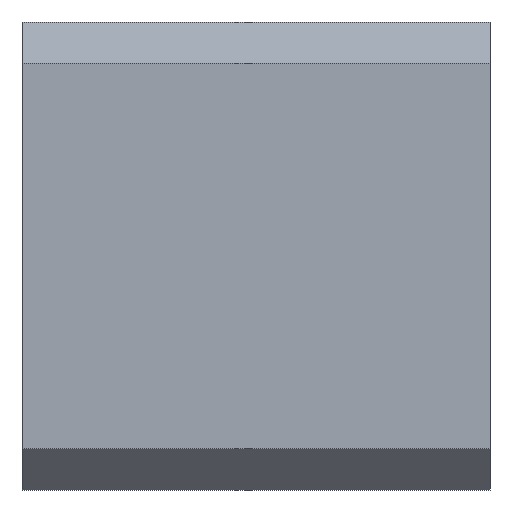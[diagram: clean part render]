
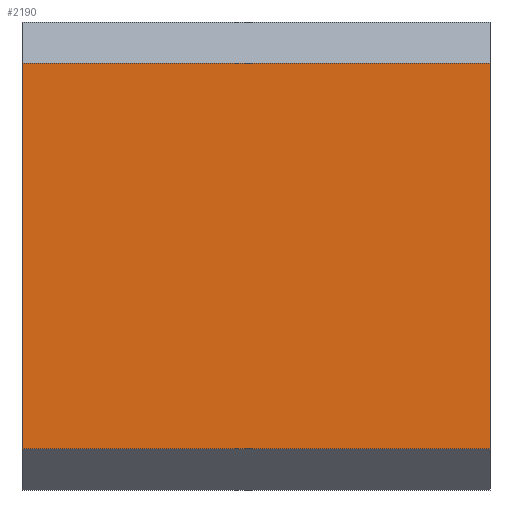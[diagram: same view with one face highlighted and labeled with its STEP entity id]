
A CAD part, left-side view. The second image highlights one B-rep face of the part: STEP entity #2190.
In plain terms, the highlighted planar face has unit normal (-1, 0, 0).
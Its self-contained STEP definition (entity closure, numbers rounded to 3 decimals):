
#13=DIRECTION('',(0.,0.,1.));
#14=VECTOR('',#13,14.);
#15=CARTESIAN_POINT('',(0.,0.,-15.5));
#16=LINE('',#15,#14);
#45=DIRECTION('',(0.,1.,0.));
#46=VECTOR('',#45,17.);
#47=CARTESIAN_POINT('',(0.,0.,-15.5));
#48=LINE('',#47,#46);
#608=DIRECTION('',(0.,1.,0.));
#609=VECTOR('',#608,17.);
#610=CARTESIAN_POINT('',(0.,0.,-1.5));
#611=LINE('',#610,#609);
#616=DIRECTION('',(0.,0.,1.));
#617=VECTOR('',#616,14.);
#618=CARTESIAN_POINT('',(0.,17.,-15.5));
#619=LINE('',#618,#617);
#1752=CARTESIAN_POINT('',(0.,0.,-1.5));
#1753=CARTESIAN_POINT('',(0.,17.,-1.5));
#1754=VERTEX_POINT('',#1752);
#1755=VERTEX_POINT('',#1753);
#1756=CARTESIAN_POINT('',(0.,0.,-15.5));
#1757=CARTESIAN_POINT('',(0.,17.,-15.5));
#1758=VERTEX_POINT('',#1756);
#1759=VERTEX_POINT('',#1757);
#2176=CARTESIAN_POINT('',(0.,0.,-17.));
#2177=DIRECTION('',(-1.,0.,0.));
#2178=DIRECTION('',(0.,0.,1.));
#2179=AXIS2_PLACEMENT_3D('',#2176,#2177,#2178);
#2180=PLANE('',#2179);
#2181=ORIENTED_EDGE('',*,*,#2139,.F.);
#2183=ORIENTED_EDGE('',*,*,#2182,.T.);
#2185=ORIENTED_EDGE('',*,*,#2184,.T.);
#2187=ORIENTED_EDGE('',*,*,#2186,.F.);
#2188=EDGE_LOOP('',(#2181,#2183,#2185,#2187));
#2189=FACE_OUTER_BOUND('',#2188,.F.);
#2190=ADVANCED_FACE('',(#2189),#2180,.T.);
#2139=EDGE_CURVE('',#1758,#1754,#16,.T.);
#2182=EDGE_CURVE('',#1758,#1759,#48,.T.);
#2184=EDGE_CURVE('',#1759,#1755,#619,.T.);
#2186=EDGE_CURVE('',#1754,#1755,#611,.T.);
